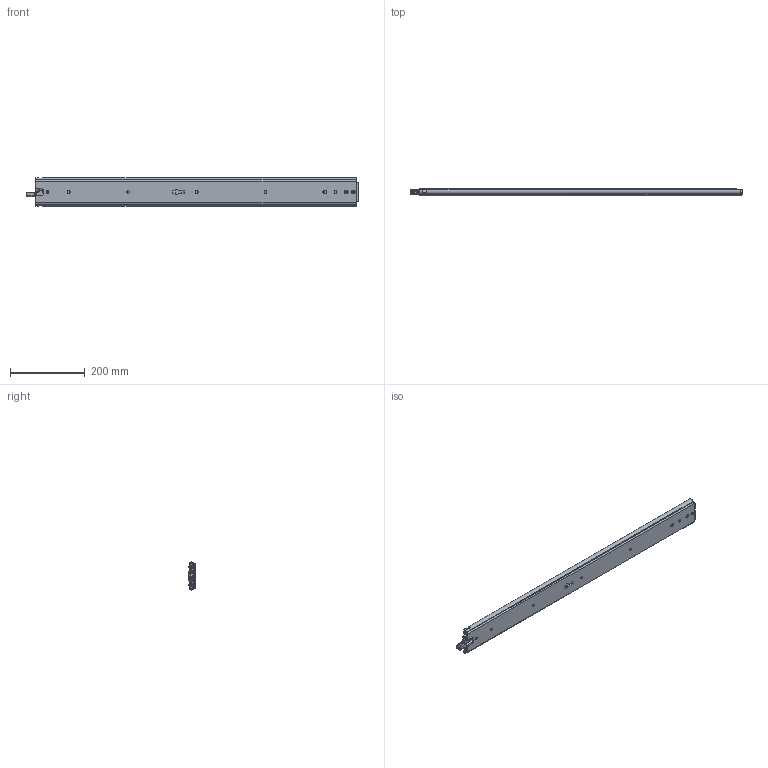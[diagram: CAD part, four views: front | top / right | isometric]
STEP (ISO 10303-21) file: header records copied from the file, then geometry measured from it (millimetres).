
FILE_DESCRIPTION((''),'2;1');
FILE_NAME('DG-76-3S-34ZUO_ASM','2023-05-10T',('jishu015'),(''),'PRO/ENGINEER BY PARAMETRIC TECHNOLOGY CORPORATION, 2010280','PRO/ENGINEER BY PARAMETRIC TECHNOLOGY CORPORATION, 2010280','');
FILE_SCHEMA(('CONFIG_CONTROL_DESIGN'));
Products named in the file (29): KP-76-04WAIKE-1816_______; 1076-WAIKEZIDANJIAO16_______; WAIK16________ASM; 1076XIAOZHUTIAO-22516_______; 16_______; 1076XIAOZHUTIAO-17516________ASM; KP-76-04ZHONGGUI1816_______; 76CHANGGUIZHONGGUIJIAO16_______; 3X6WODIN16_______; ZHONGGUIBAIKOU16_______; PJ-76-30______; PJ-76-03______; 76-XIAOZHUJIA-11______; GANGZHU-XIAO______; ZHUJIA-XIAO_______ASM; ZHONGGUI6________ASM; KP-76-04NEIGUI1816_______; PJ-76-31______; DAOGPIAN16_______; 1053-3SBANJ01______; JIAO-11______; 76XINSUOKOU______; PJ-338______; PJ-356______; PJ-357______; PJ-336______; M4X4______; NEIGUI16________ASM; DG-76-3S-34ZUO_ASM
Assembly tree (73 placements, depth 4):
  DG-76-3S-34ZUO_ASM
    WAIK16________ASM
      KP-76-04WAIKE-1816_______
      1076-WAIKEZIDANJIAO16_______  x2
    1076XIAOZHUTIAO-17516________ASM  x2
      1076XIAOZHUTIAO-22516_______
      16_______
    ZHONGGUI6________ASM
      KP-76-04ZHONGGUI1816_______
      76CHANGGUIZHONGGUIJIAO16_______
      3X6WODIN16_______
      ZHONGGUIBAIKOU16_______
      PJ-76-30______
      PJ-76-03______
      ZHUJIA-XIAO_______ASM
        76-XIAOZHUJIA-11______
        GANGZHU-XIAO______  x30
    NEIGUI16________ASM
      KP-76-04NEIGUI1816_______
      PJ-76-31______
      DAOGPIAN16_______
      1053-3SBANJ01______
      JIAO-11______
      76XINSUOKOU______
      PJ-338______
      PJ-356______
      PJ-357______
      PJ-336______
      M4X4______
Bounding box: 889.52 x 20.7 x 75.3 mm (x, y, z)
Volume: 567973.4 mm3; surface area: 546276.5 mm2
Topology: 84 solids, 84 shells, 2155 faces, 6488 edges, 4112 vertices
Faces by surface type: plane 1109, cylinder 792, sphere 127, bspline 60, cone 28, extrusion 23, torus 16
Entity records: 70304 total; most frequent: CARTESIAN_POINT 18856, ORIENTED_EDGE 11200, DIRECTION 10231, EDGE_CURVE 5600, VERTEX_POINT 3648, AXIS2_PLACEMENT_3D 3518, VECTOR 3195, LINE 3172
